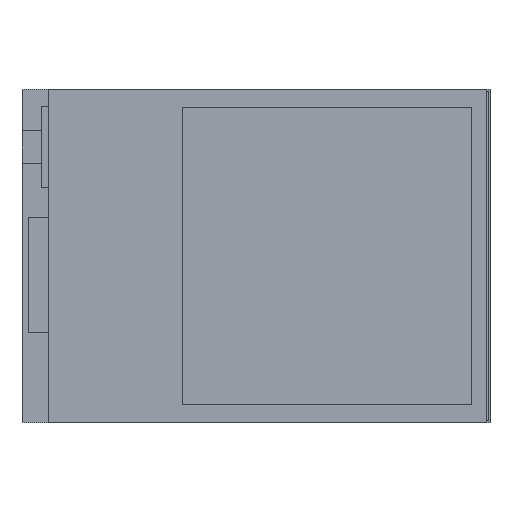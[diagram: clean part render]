
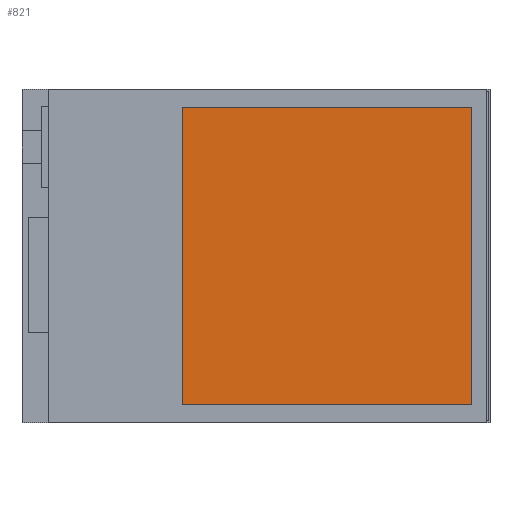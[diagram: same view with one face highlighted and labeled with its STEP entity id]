
A CAD part, top view. The second image highlights one B-rep face of the part: STEP entity #821.
In plain terms, the highlighted planar face has unit normal (0, 0, 1).
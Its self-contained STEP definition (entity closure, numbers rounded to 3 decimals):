
#98 = B_SPLINE_CURVE_WITH_KNOTS ( 'NONE', 1,
 ( #2275, #2218 ),
 .UNSPECIFIED., .F., .F.,
 ( 2, 2 ),
 ( 13.55, 27.47 ),
 .UNSPECIFIED. ) ;
#155 = VERTEX_POINT ( 'NONE', #825 ) ;
#157 = B_SPLINE_CURVE_WITH_KNOTS ( 'NONE', 1,
 ( #1598, #857 ),
 .UNSPECIFIED., .F., .F.,
 ( 2, 2 ),
 ( 41.02, 54.94 ),
 .UNSPECIFIED. ) ;
#263 = CARTESIAN_POINT ( 'NONE',  ( -3.75, -7.16, 1.7 ) ) ;
#415 = DIRECTION ( 'NONE',  ( 1., 0., 0. ) ) ;
#431 = FACE_OUTER_BOUND ( 'NONE', #2097, .T. ) ;
#649 = PLANE ( 'NONE',  #1510 ) ;
#651 = B_SPLINE_CURVE_WITH_KNOTS ( 'NONE', 1,
 ( #966, #1758 ),
 .UNSPECIFIED., .F., .F.,
 ( 2, 2 ),
 ( 27.47, 41.02 ),
 .UNSPECIFIED. ) ;
#654 = EDGE_CURVE ( 'NONE', #155, #1042, #651, .T. ) ;
#821 = ADVANCED_FACE ( 'NONE', ( #431 ), #649, .T. ) ;
#825 = CARTESIAN_POINT ( 'NONE',  ( 9.8, 6.76, 1.7 ) ) ;
#857 = CARTESIAN_POINT ( 'NONE',  ( -3.75, -7.16, 1.7 ) ) ;
#907 = VERTEX_POINT ( 'NONE', #263 ) ;
#930 = EDGE_CURVE ( 'NONE', #1042, #907, #157, .T. ) ;
#966 = CARTESIAN_POINT ( 'NONE',  ( 9.8, 6.76, 1.7 ) ) ;
#985 = ORIENTED_EDGE ( 'NONE', *, *, #1903, .T. ) ;
#991 = ORIENTED_EDGE ( 'NONE', *, *, #1157, .T. ) ;
#1042 = VERTEX_POINT ( 'NONE', #1471 ) ;
#1068 = CARTESIAN_POINT ( 'NONE',  ( -3.75, -7.16, 1.7 ) ) ;
#1087 = ORIENTED_EDGE ( 'NONE', *, *, #654, .T. ) ;
#1157 = EDGE_CURVE ( 'NONE', #1203, #155, #98, .T. ) ;
#1203 = VERTEX_POINT ( 'NONE', #1480 ) ;
#1471 = CARTESIAN_POINT ( 'NONE',  ( -3.75, 6.76, 1.7 ) ) ;
#1480 = CARTESIAN_POINT ( 'NONE',  ( 9.8, -7.16, 1.7 ) ) ;
#1510 = AXIS2_PLACEMENT_3D ( 'NONE', #1821, #2201, #415 ) ;
#1564 = ORIENTED_EDGE ( 'NONE', *, *, #930, .T. ) ;
#1598 = CARTESIAN_POINT ( 'NONE',  ( -3.75, 6.76, 1.7 ) ) ;
#1758 = CARTESIAN_POINT ( 'NONE',  ( -3.75, 6.76, 1.7 ) ) ;
#1821 = CARTESIAN_POINT ( 'NONE',  ( -3.75, -7.16, 1.7 ) ) ;
#1903 = EDGE_CURVE ( 'NONE', #907, #1203, #2542, .T. ) ;
#2097 = EDGE_LOOP ( 'NONE', ( #985, #991, #1087, #1564 ) ) ;
#2201 = DIRECTION ( 'NONE',  ( 0., 0., 1. ) ) ;
#2218 = CARTESIAN_POINT ( 'NONE',  ( 9.8, 6.76, 1.7 ) ) ;
#2275 = CARTESIAN_POINT ( 'NONE',  ( 9.8, -7.16, 1.7 ) ) ;
#2446 = CARTESIAN_POINT ( 'NONE',  ( 9.8, -7.16, 1.7 ) ) ;
#2542 = B_SPLINE_CURVE_WITH_KNOTS ( 'NONE', 1,
 ( #1068, #2446 ),
 .UNSPECIFIED., .F., .F.,
 ( 2, 2 ),
 ( 0., 13.55 ),
 .UNSPECIFIED. ) ;
